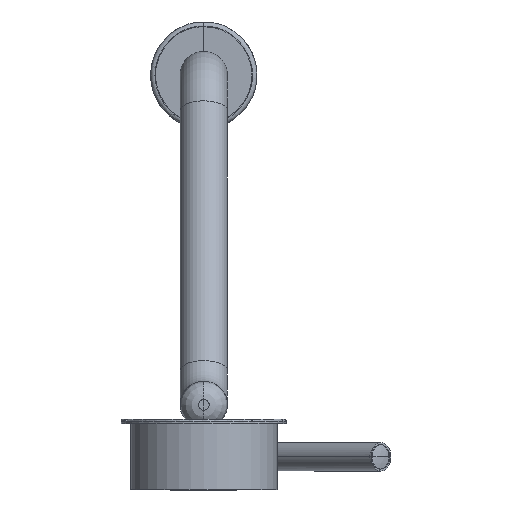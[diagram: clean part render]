
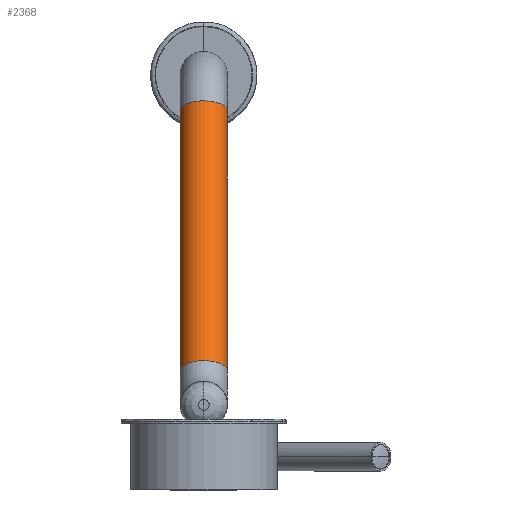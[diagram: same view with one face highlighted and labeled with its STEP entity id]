
A CAD part, front view. The second image highlights one B-rep face of the part: STEP entity #2368.
In plain terms, the highlighted cylindrical face has radius 10 mm (diameter 20 mm), a partial arc.
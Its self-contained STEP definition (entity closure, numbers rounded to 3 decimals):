
#106=B_SPLINE_CURVE_WITH_KNOTS('',3,(#4051,#4052,#4053,#4054,#4055,#4056,
#4057,#4058,#4059,#4060,#4061,#4062,#4063,#4064,#4065),.UNSPECIFIED.,.F.,
 .F.,(4,1,1,1,1,1,1,1,1,1,1,1,4),(0.,0.083,0.167,
0.25,0.333,0.417,0.5,0.583,0.667,
0.75,0.833,0.917,1.),.UNSPECIFIED.);
#108=B_SPLINE_CURVE_WITH_KNOTS('',3,(#4087,#4088,#4089,#4090,#4091,#4092,
#4093,#4094,#4095,#4096,#4097,#4098,#4099,#4100,#4101),.UNSPECIFIED.,.F.,
 .F.,(4,1,1,1,1,1,1,1,1,1,1,1,4),(0.,0.083,0.167,
0.25,0.333,0.417,0.5,0.583,0.667,
0.75,0.833,0.917,1.),.UNSPECIFIED.);
#263=CYLINDRICAL_SURFACE('',#2562,10.);
#422=FACE_OUTER_BOUND('',#573,.T.);
#573=EDGE_LOOP('',(#1863,#1864,#1865,#1866));
#741=LINE('',#4084,#884);
#742=LINE('',#4085,#885);
#884=VECTOR('',#2959,304.8);
#885=VECTOR('',#2960,304.8);
#1043=VERTEX_POINT('',#4023);
#1044=VERTEX_POINT('',#4024);
#1045=VERTEX_POINT('',#4067);
#1046=VERTEX_POINT('',#4068);
#1337=EDGE_CURVE('',#1044,#1043,#106,.T.);
#1339=EDGE_CURVE('',#1043,#1045,#741,.T.);
#1340=EDGE_CURVE('',#1046,#1044,#742,.T.);
#1341=EDGE_CURVE('',#1046,#1045,#108,.T.);
#1863=ORIENTED_EDGE('',*,*,#1341,.F.);
#1864=ORIENTED_EDGE('',*,*,#1340,.T.);
#1865=ORIENTED_EDGE('',*,*,#1337,.T.);
#1866=ORIENTED_EDGE('',*,*,#1339,.T.);
#2368=ADVANCED_FACE('',(#422),#263,.T.);
#2562=AXIS2_PLACEMENT_3D('',#4086,#2961,#2962);
#2959=DIRECTION('',(0.,-0.419,-0.908));
#2960=DIRECTION('',(0.,0.419,0.908));
#2961=DIRECTION('center_axis',(0.,-0.419,-0.908));
#2962=DIRECTION('ref_axis',(-1.,0.,0.));
#4023=CARTESIAN_POINT('',(-10.,109.472,160.378));
#4024=CARTESIAN_POINT('',(10.,109.472,160.378));
#4051=CARTESIAN_POINT('Ctrl Pts',(10.,109.472,160.378));
#4052=CARTESIAN_POINT('Ctrl Pts',(10.003,108.679,160.745));
#4053=CARTESIAN_POINT('Ctrl Pts',(9.769,107.096,161.476));
#4054=CARTESIAN_POINT('Ctrl Pts',(8.76,104.881,162.5));
#4055=CARTESIAN_POINT('Ctrl Pts',(7.152,102.979,163.379));
#4056=CARTESIAN_POINT('Ctrl Pts',(5.057,101.52,164.053));
#4057=CARTESIAN_POINT('Ctrl Pts',(2.618,100.603,164.477));
#4058=CARTESIAN_POINT('Ctrl Pts',(0.,100.29,
164.621));
#4059=CARTESIAN_POINT('Ctrl Pts',(-2.618,100.603,164.477));
#4060=CARTESIAN_POINT('Ctrl Pts',(-5.057,101.52,164.053));
#4061=CARTESIAN_POINT('Ctrl Pts',(-7.152,102.979,163.379));
#4062=CARTESIAN_POINT('Ctrl Pts',(-8.76,104.881,162.5));
#4063=CARTESIAN_POINT('Ctrl Pts',(-9.769,107.096,161.476));
#4064=CARTESIAN_POINT('Ctrl Pts',(-10.003,108.679,160.745));
#4065=CARTESIAN_POINT('Ctrl Pts',(-10.,109.472,160.378));
#4067=CARTESIAN_POINT('',(-10.,58.703,50.513));
#4068=CARTESIAN_POINT('',(10.,58.703,50.513));
#4084=CARTESIAN_POINT('',(-10.,109.472,160.378));
#4085=CARTESIAN_POINT('',(10.,58.703,50.513));
#4086=CARTESIAN_POINT('Origin',(0.,58.703,50.513));
#4087=CARTESIAN_POINT('Ctrl Pts',(10.,58.703,50.513));
#4088=CARTESIAN_POINT('Ctrl Pts',(10.003,57.91,50.879));
#4089=CARTESIAN_POINT('Ctrl Pts',(9.769,56.327,51.611));
#4090=CARTESIAN_POINT('Ctrl Pts',(8.76,54.112,52.635));
#4091=CARTESIAN_POINT('Ctrl Pts',(7.152,52.21,53.513));
#4092=CARTESIAN_POINT('Ctrl Pts',(5.057,50.751,54.188));
#4093=CARTESIAN_POINT('Ctrl Pts',(2.618,49.834,54.611));
#4094=CARTESIAN_POINT('Ctrl Pts',(0.,49.521,
54.756));
#4095=CARTESIAN_POINT('Ctrl Pts',(-2.618,49.834,54.611));
#4096=CARTESIAN_POINT('Ctrl Pts',(-5.057,50.751,54.188));
#4097=CARTESIAN_POINT('Ctrl Pts',(-7.152,52.21,53.513));
#4098=CARTESIAN_POINT('Ctrl Pts',(-8.76,54.112,52.635));
#4099=CARTESIAN_POINT('Ctrl Pts',(-9.769,56.327,51.611));
#4100=CARTESIAN_POINT('Ctrl Pts',(-10.003,57.91,50.879));
#4101=CARTESIAN_POINT('Ctrl Pts',(-10.,58.703,50.513));
